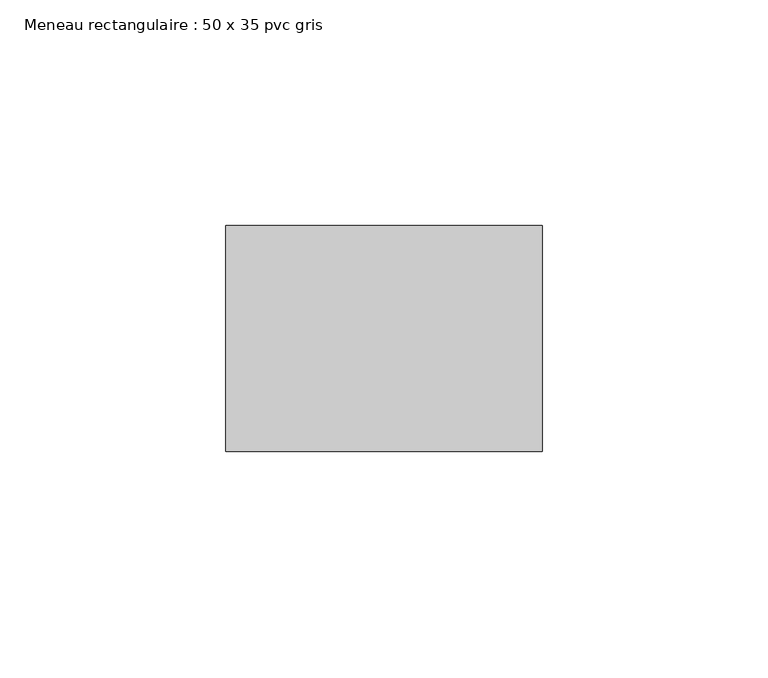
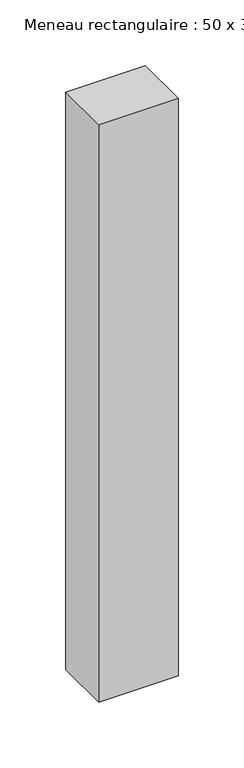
"""IFC4 building model written with IfcOpenShell, lengths in millimetres: member geometry, Meneau rectangulaire : 50 x 35 pvc gris."""

from ifc_helpers import new_model, si_unit, frame, origin, place, context, project, spatial, polyline, outline, extrude, source, transform, mapped, element, save


def meneau_rectangulaire_50_x_35_pvc_gris_91cb8a98(model_context):
    return source(origin(), model_context, "Body", "SweptSolid", [
        extrude(outline(polyline([(0.0, 0.0), (0.0, -50.0), (-70.0, -50.0), (-70.0, 0.0), (0.0, 0.0)])), frame((0.0, 0.0, -536.3632634), z_axis=(0.0, 0.0, 1.0), x_axis=(1.0, 0.0, 0.0)), (0.0, 0.0, 1.0), 536.3632634),
    ])


if __name__ == "__main__":
    model = new_model("IFC4")
    model_context = context("Model", 3, world=origin())
    ifc_project = project(units=[si_unit("LENGTHUNIT", "METRE", prefix="MILLI")], contexts=[model_context])
    site = spatial("IfcSite", under=ifc_project)
    building = spatial("IfcBuilding", under=site)
    placement = place(None, origin())
    meneau_rectangulaire_50_x_35_pvc_gris_shape = meneau_rectangulaire_50_x_35_pvc_gris_91cb8a98(model_context)
    element("IfcMember", 1, ObjectType="Meneau rectangulaire : 50 x 35 pvc gris", at=placement, inside=building, context=model_context, shape_type="MappedRepresentation", body=[
        mapped(meneau_rectangulaire_50_x_35_pvc_gris_shape, transform((0.0, 0.0, 0.0), x_axis=(1.0, 0.0, 0.0), y_axis=(0.0, 1.0, 0.0), z_axis=(0.0, 0.0, 1.0))),
    ])
    save(model, "model.ifc")
